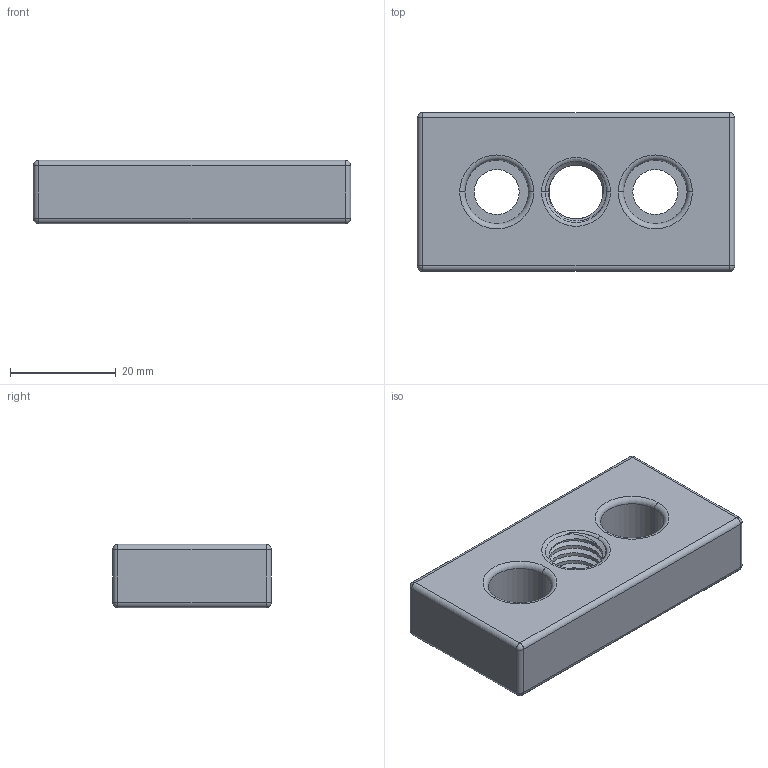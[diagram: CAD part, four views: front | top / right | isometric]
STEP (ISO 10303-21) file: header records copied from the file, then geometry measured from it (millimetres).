
FILE_DESCRIPTION (( 'STEP AP203' ), '1' );
FILE_NAME ('101-CE-SEC3060-8.STEP', '2015-07-09T08:37:54', ( '' ), ( '' ), 'SwSTEP 2.0', 'SolidWorks 2013', '' );
FILE_SCHEMA (( 'CONFIG_CONTROL_DESIGN' ));
Length unit declared in the file: millimetre
Products named in the file (1): 101-CE-SEC3060-8
Bounding box: 60 x 30 x 12 mm (x, y, z)
Volume: 18019.4 mm3; surface area: 6610.2 mm2
Topology: 1 solids, 1 shells, 62 faces, 151 edges, 85 vertices
Faces by surface type: cylinder 34, plane 8, sphere 8, torus 6, cone 4, bspline 2
Entity records: 3014 total; most frequent: CARTESIAN_POINT 1585, DIRECTION 288, ORIENTED_EDGE 286, EDGE_CURVE 143, AXIS2_PLACEMENT_3D 120, VERTEX_POINT 85, EDGE_LOOP 70, ADVANCED_FACE 62
